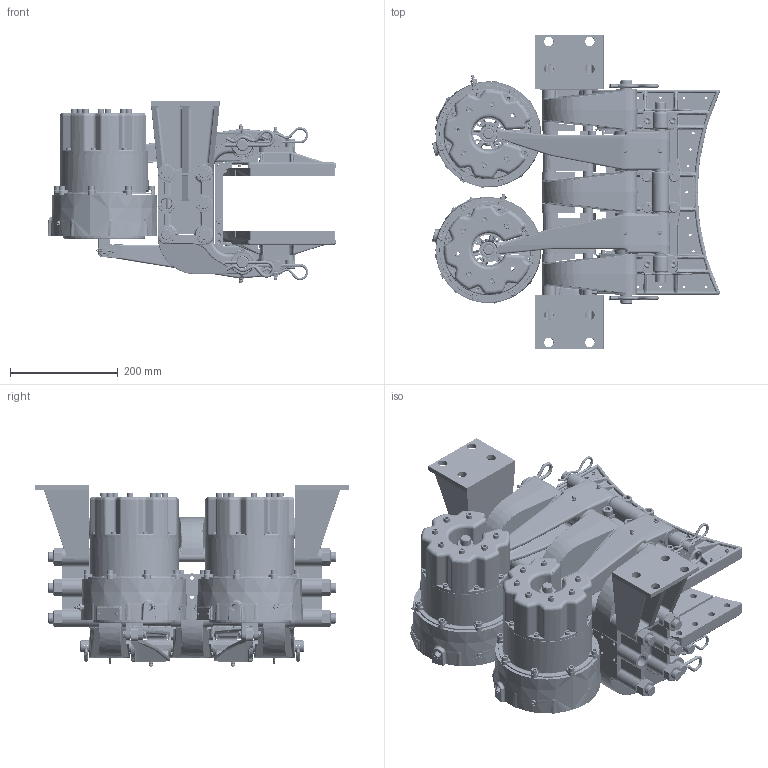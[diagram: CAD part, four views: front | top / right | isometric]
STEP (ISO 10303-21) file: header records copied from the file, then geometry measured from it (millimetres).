
FILE_DESCRIPTION (( 'STEP AP214' ), '1' );
FILE_NAME ('5026-SHW-RH.STEP', '2019-02-22T21:57:21', ( '' ), ( '' ), 'SwSTEP 2.0', 'SolidWorks 2017', '' );
FILE_SCHEMA (( 'AUTOMOTIVE_DESIGN' ));
Length unit declared in the file: inch
Products named in the file (1): 5026-SHW-RH
Bounding box: 534.62 x 584.2 x 337.61 mm (x, y, z)
Surface area: 2326334.6 mm2 (no closed solid volume)
Topology: 0 solids, 289 shells, 4911 faces, 15678 edges, 10620 vertices
Faces by surface type: cylinder 1495, plane 1342, bspline 838, cone 620, torus 523, sphere 93
Entity records: 290100 total; most frequent: CARTESIAN_POINT 100178, DIRECTION 25410, ORIENTED_EDGE 24871, EDGE_CURVE 15541, VERTEX_POINT 10612, AXIS2_PLACEMENT_3D 10234, CIRCLE 6160, EDGE_LOOP 5581
